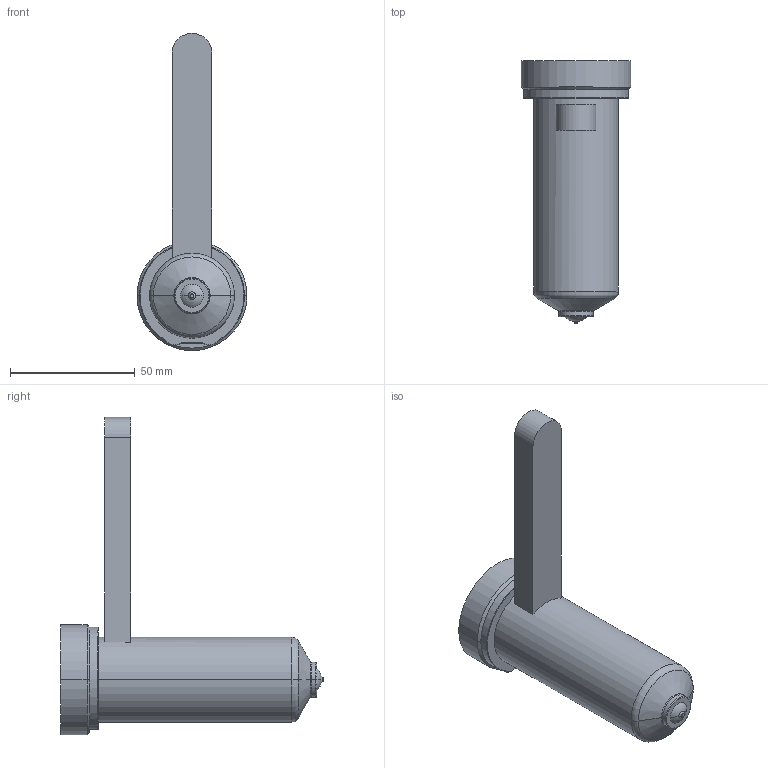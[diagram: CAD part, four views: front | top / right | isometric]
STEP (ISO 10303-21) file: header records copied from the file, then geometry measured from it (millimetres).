
FILE_DESCRIPTION((''),'2;1');
FILE_NAME('EO10_PG-BL_STD_090_COT','2024-02-19T11:08:19',('sundharh'),(''),'CREO PARAMETRIC BY PTC INC, 2023154','CREO PARAMETRIC BY PTC INC, 2023154','');
FILE_SCHEMA(('CONFIG_CONTROL_DESIGN'));
Length unit declared in the file: millimetre
Products named in the file (1): EO10_PG-BL_STD_090_COT
Bounding box: 44 x 105 x 127 mm (x, y, z)
Volume: 111901.6 mm3; surface area: 18249 mm2
Topology: 1 solids, 1 shells, 40 faces, 85 edges, 50 vertices
Faces by surface type: cylinder 13, plane 10, torus 9, cone 6, sphere 2
Entity records: 1193 total; most frequent: CARTESIAN_POINT 263, DIRECTION 209, ORIENTED_EDGE 170, AXIS2_PLACEMENT_3D 90, EDGE_CURVE 85, VERTEX_POINT 50, CIRCLE 50, EDGE_LOOP 43
